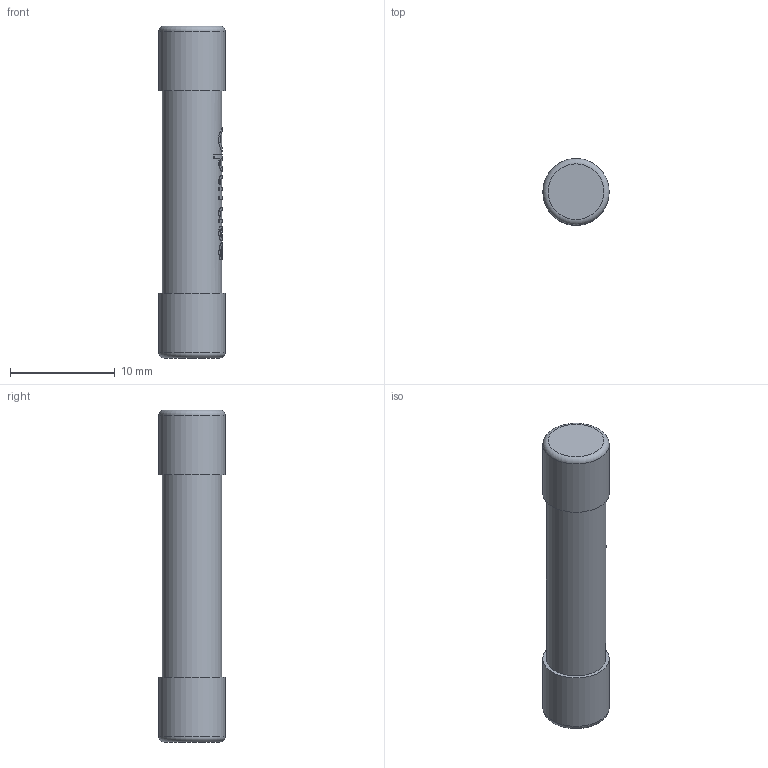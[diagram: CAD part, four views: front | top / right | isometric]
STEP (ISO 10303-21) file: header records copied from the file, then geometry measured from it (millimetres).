
FILE_DESCRIPTION(/* description */ (''),/* implementation_level */ '2;1');
FILE_NAME(/* name */ 'C:\Users\Hani\Desktop\work\TSA\TSA.stp',/* time_stamp */ '2021-08-22T17:55:05-07:00',/* author */ ('Hani'),/* organization */ (''),/* preprocessor_version */ 'ST-DEVELOPER v17',/* originating_system */ 'Autodesk Inventor 2019',/* authorisation */ '');
FILE_SCHEMA (('AUTOMOTIVE_DESIGN { 1 0 10303 214 3 1 1 }'));
Length unit declared in the file: inch
Products named in the file (1): SCA
Bounding box: 6.35 x 6.35 x 31.75 mm (x, y, z)
Volume: 812.1 mm3; surface area: 760.8 mm2
Topology: 1 solids, 2 shells, 150 faces, 417 edges, 277 vertices
Faces by surface type: bspline 67, plane 63, cylinder 17, torus 3
Full cylindrical faces by diameter (mm): 5.588 x1, 5.677 x1, 6.35 x2
Entity records: 6297 total; most frequent: CARTESIAN_POINT 2773, ORIENTED_EDGE 834, DIRECTION 531, EDGE_CURVE 417, VERTEX_POINT 277, LINE 189, VECTOR 189, AXIS2_PLACEMENT_3D 171
